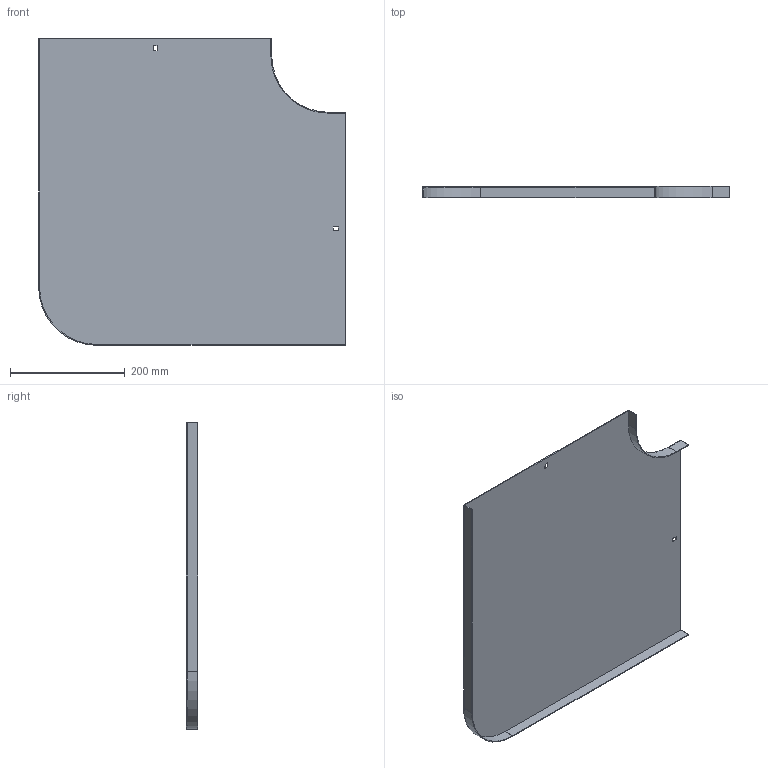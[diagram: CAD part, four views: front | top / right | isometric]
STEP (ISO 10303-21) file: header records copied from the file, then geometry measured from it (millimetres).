
FILE_DESCRIPTION (( 'STEP AP214' ), '1' );
FILE_NAME ('10G1P400.step', '2025-02-21T12:46:36', ( '' ), ( '' ), 'SwSTEP 2.0', 'SolidWorks 2023', '' );
FILE_SCHEMA (( 'AUTOMOTIVE_DESIGN' ));
Length unit declared in the file: millimetre
Products named in the file (1): 10G1P400
Bounding box: 535.5 x 20 x 535.5 mm (x, y, z)
Volume: 439473.3 mm3; surface area: 589252.6 mm2
Topology: 1 solids, 1 shells, 26 faces, 72 edges, 48 vertices
Faces by surface type: plane 22, cylinder 4
Entity records: 855 total; most frequent: CARTESIAN_POINT 147, ORIENTED_EDGE 144, DIRECTION 134, EDGE_CURVE 72, VECTOR 64, LINE 64, VERTEX_POINT 48, AXIS2_PLACEMENT_3D 35
